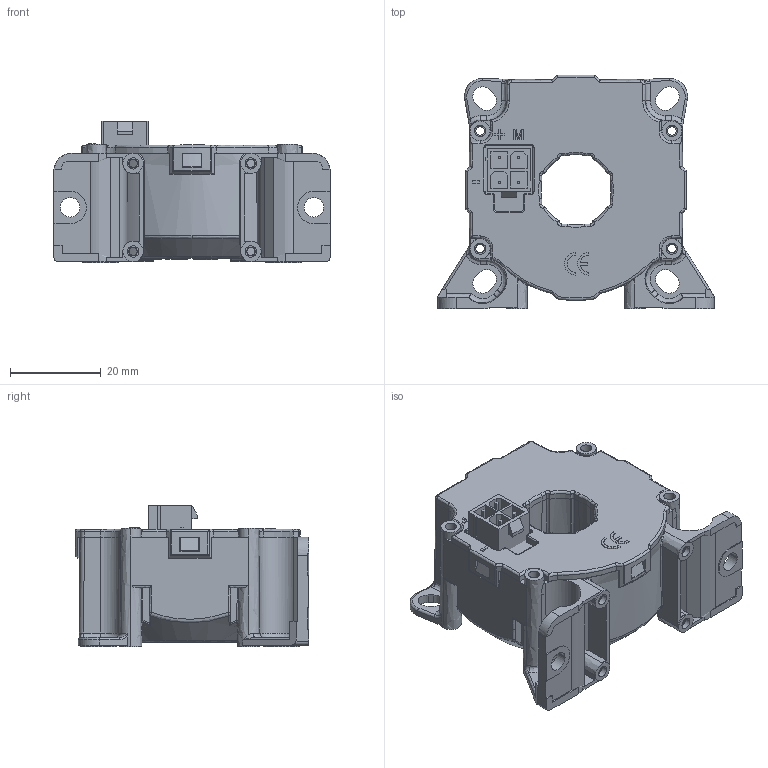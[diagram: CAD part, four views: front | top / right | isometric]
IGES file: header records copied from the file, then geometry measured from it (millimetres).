
Start section: Elysium IGES Interface
Global section: file name: \\Gva50\sd-data\Etudes\GVu\Serie_blackbox\LF 205-S_SP5_blackbox\LF 205-S_SP5_blackbox.igs; native system: SolidDesigner 16.00A  16-Aug-2008; preprocessor: CoCreate IGES_3D V2.2; author: Unknown; organization: Unknown; date: 20090316.083919; units: millimetre
Bounding box: 61 x 51.63 x 31.29 mm (x, y, z)
Volume: 43554.1 mm3; surface area: 18415.2 mm2
Topology: 3 solids, 3 shells, 1412 faces, 3794 edges, 2454 vertices
Faces by surface type: bspline 1412
